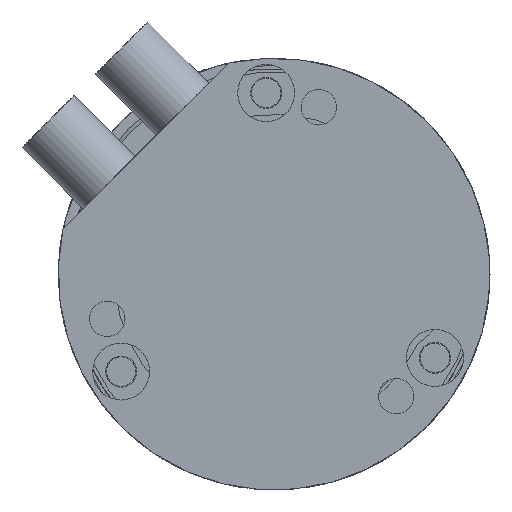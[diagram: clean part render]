
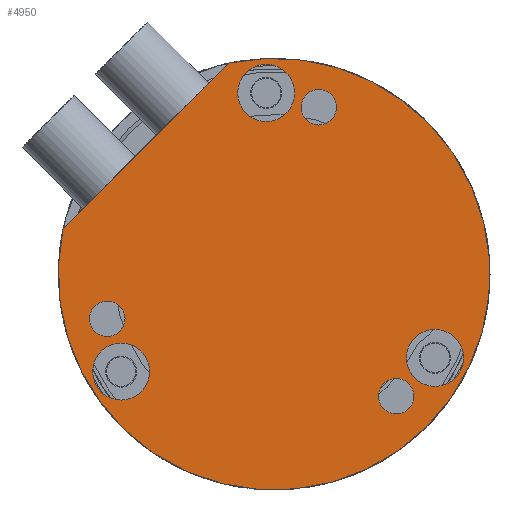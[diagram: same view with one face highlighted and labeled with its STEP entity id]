
A CAD part, front view. The second image highlights one B-rep face of the part: STEP entity #4950.
In plain terms, the highlighted planar face has unit normal (0, -1, 0).
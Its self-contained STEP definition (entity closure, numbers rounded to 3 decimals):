
#74 = ORIENTED_EDGE ( 'NONE', *, *, #3705, .F. ) ;
#134 = CIRCLE ( 'NONE', #2217, 12.5 ) ;
#162 = DIRECTION ( 'NONE',  ( 0., -1., 0. ) ) ;
#247 = CIRCLE ( 'NONE', #3370, 1.65 ) ;
#368 = CARTESIAN_POINT ( 'NONE',  ( 7.071, -5.425, -7.071 ) ) ;
#443 = CARTESIAN_POINT ( 'NONE',  ( -9.659, -5.425, -1.563 ) ) ;
#469 = CIRCLE ( 'NONE', #1520, 1.025 ) ;
#523 = FACE_BOUND ( 'NONE', #4455, .T. ) ;
#553 = FACE_BOUND ( 'NONE', #2846, .T. ) ;
#579 = LINE ( 'NONE', #1283, #849 ) ;
#609 = ORIENTED_EDGE ( 'NONE', *, *, #4215, .F. ) ;
#622 = DIRECTION ( 'NONE',  ( 0., -1., 0. ) ) ;
#697 = DIRECTION ( 'NONE',  ( 0., -1., 0. ) ) ;
#746 = DIRECTION ( 'NONE',  ( 0., -1., 0. ) ) ;
#768 = ORIENTED_EDGE ( 'NONE', *, *, #4931, .F. ) ;
#818 = EDGE_CURVE ( 'NONE', #2961, #2961, #4416, .T. ) ;
#844 = ORIENTED_EDGE ( 'NONE', *, *, #1709, .F. ) ;
#849 = VECTOR ( 'NONE', #3218, 1000. ) ;
#1256 = DIRECTION ( 'NONE',  ( 0., 0., 1. ) ) ;
#1283 = CARTESIAN_POINT ( 'NONE',  ( -2.629, -5.425, 12.22 ) ) ;
#1326 = FACE_BOUND ( 'NONE', #4434, .T. ) ;
#1341 = CARTESIAN_POINT ( 'NONE',  ( -0.458, -5.425, 12.14 ) ) ;
#1402 = CARTESIAN_POINT ( 'NONE',  ( -0.458, -5.425, 10.49 ) ) ;
#1406 = CARTESIAN_POINT ( 'NONE',  ( -8.856, -5.425, -5.642 ) ) ;
#1448 = CARTESIAN_POINT ( 'NONE',  ( 9.314, -5.425, -3.198 ) ) ;
#1520 = AXIS2_PLACEMENT_3D ( 'NONE', #2437, #2859, #2033 ) ;
#1523 = CIRCLE ( 'NONE', #4504, 1.65 ) ;
#1563 = EDGE_CURVE ( 'NONE', #4111, #4111, #2323, .T. ) ;
#1709 = EDGE_CURVE ( 'NONE', #4283, #4283, #469, .T. ) ;
#1840 = AXIS2_PLACEMENT_3D ( 'NONE', #368, #3796, #4295 ) ;
#1850 = CIRCLE ( 'NONE', #4274, 1.65 ) ;
#1949 = DIRECTION ( 'NONE',  ( 0., 0., 1. ) ) ;
#2033 = DIRECTION ( 'NONE',  ( 0., 0., 1. ) ) ;
#2035 = CARTESIAN_POINT ( 'NONE',  ( -2.629, -5.425, 12.22 ) ) ;
#2054 = CARTESIAN_POINT ( 'NONE',  ( -12.22, -5.425, 2.629 ) ) ;
#2121 = VERTEX_POINT ( 'NONE', #3301 ) ;
#2179 = EDGE_LOOP ( 'NONE', ( #768 ) ) ;
#2217 = AXIS2_PLACEMENT_3D ( 'NONE', #3167, #2817, #1256 ) ;
#2284 = ORIENTED_EDGE ( 'NONE', *, *, #2445, .T. ) ;
#2323 = CIRCLE ( 'NONE', #1840, 1.025 ) ;
#2437 = CARTESIAN_POINT ( 'NONE',  ( -9.659, -5.425, -2.588 ) ) ;
#2445 = EDGE_CURVE ( 'NONE', #2954, #2523, #134, .T. ) ;
#2492 = FACE_BOUND ( 'NONE', #2179, .T. ) ;
#2523 = VERTEX_POINT ( 'NONE', #2035 ) ;
#2566 = DIRECTION ( 'NONE',  ( 0., -1., 0. ) ) ;
#2817 = DIRECTION ( 'NONE',  ( 0., -1., 0. ) ) ;
#2836 = PLANE ( 'NONE',  #3049 ) ;
#2846 = EDGE_LOOP ( 'NONE', ( #609 ) ) ;
#2859 = DIRECTION ( 'NONE',  ( 0., -1., 0. ) ) ;
#2930 = FACE_BOUND ( 'NONE', #4898, .T. ) ;
#2954 = VERTEX_POINT ( 'NONE', #2054 ) ;
#2961 = VERTEX_POINT ( 'NONE', #3078 ) ;
#3008 = CARTESIAN_POINT ( 'NONE',  ( 2.588, -5.425, 9.659 ) ) ;
#3049 = AXIS2_PLACEMENT_3D ( 'NONE', #3603, #162, #4388 ) ;
#3078 = CARTESIAN_POINT ( 'NONE',  ( 2.588, -5.425, 10.684 ) ) ;
#3167 = CARTESIAN_POINT ( 'NONE',  ( 0., -5.425, 0. ) ) ;
#3218 = DIRECTION ( 'NONE',  ( -0.707, 0., -0.707 ) ) ;
#3227 = ORIENTED_EDGE ( 'NONE', *, *, #818, .F. ) ;
#3234 = FACE_BOUND ( 'NONE', #4786, .T. ) ;
#3301 = CARTESIAN_POINT ( 'NONE',  ( -8.856, -5.425, -3.992 ) ) ;
#3370 = AXIS2_PLACEMENT_3D ( 'NONE', #3823, #746, #1949 ) ;
#3598 = EDGE_CURVE ( 'NONE', #2523, #2954, #579, .T. ) ;
#3603 = CARTESIAN_POINT ( 'NONE',  ( 0., -5.425, 0. ) ) ;
#3682 = AXIS2_PLACEMENT_3D ( 'NONE', #3008, #697, #4622 ) ;
#3705 = EDGE_CURVE ( 'NONE', #2121, #2121, #1523, .T. ) ;
#3796 = DIRECTION ( 'NONE',  ( 0., -1., 0. ) ) ;
#3823 = CARTESIAN_POINT ( 'NONE',  ( 9.314, -5.425, -4.848 ) ) ;
#3898 = CARTESIAN_POINT ( 'NONE',  ( 7.071, -5.425, -6.046 ) ) ;
#3966 = ORIENTED_EDGE ( 'NONE', *, *, #3598, .T. ) ;
#3977 = DIRECTION ( 'NONE',  ( 0., 0., 1. ) ) ;
#4111 = VERTEX_POINT ( 'NONE', #3898 ) ;
#4121 = VERTEX_POINT ( 'NONE', #1341 ) ;
#4123 = EDGE_LOOP ( 'NONE', ( #3966, #2284 ) ) ;
#4215 = EDGE_CURVE ( 'NONE', #4841, #4841, #247, .T. ) ;
#4274 = AXIS2_PLACEMENT_3D ( 'NONE', #1402, #622, #3977 ) ;
#4283 = VERTEX_POINT ( 'NONE', #443 ) ;
#4295 = DIRECTION ( 'NONE',  ( 0., 0., 1. ) ) ;
#4388 = DIRECTION ( 'NONE',  ( 0., 0., 1. ) ) ;
#4416 = CIRCLE ( 'NONE', #3682, 1.025 ) ;
#4434 = EDGE_LOOP ( 'NONE', ( #74 ) ) ;
#4455 = EDGE_LOOP ( 'NONE', ( #4925 ) ) ;
#4469 = DIRECTION ( 'NONE',  ( 0., 0., 1. ) ) ;
#4504 = AXIS2_PLACEMENT_3D ( 'NONE', #1406, #2566, #4469 ) ;
#4622 = DIRECTION ( 'NONE',  ( 0., 0., 1. ) ) ;
#4773 = FACE_OUTER_BOUND ( 'NONE', #4123, .T. ) ;
#4786 = EDGE_LOOP ( 'NONE', ( #3227 ) ) ;
#4841 = VERTEX_POINT ( 'NONE', #1448 ) ;
#4898 = EDGE_LOOP ( 'NONE', ( #844 ) ) ;
#4925 = ORIENTED_EDGE ( 'NONE', *, *, #1563, .F. ) ;
#4931 = EDGE_CURVE ( 'NONE', #4121, #4121, #1850, .T. ) ;
#4950 = ADVANCED_FACE ( 'NONE', ( #523, #3234, #2930, #4773, #553, #1326, #2492 ), #2836, .T. ) ;
